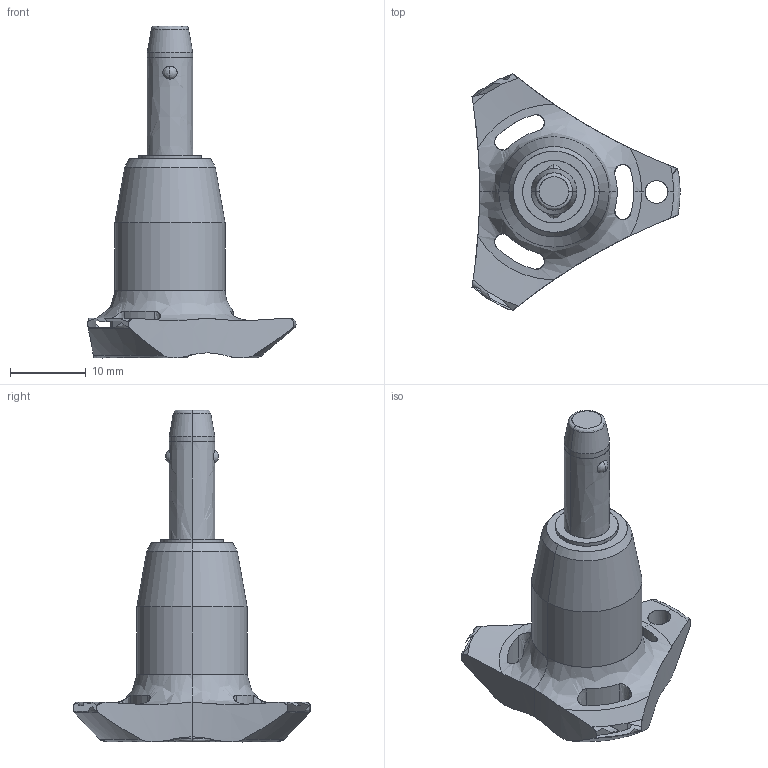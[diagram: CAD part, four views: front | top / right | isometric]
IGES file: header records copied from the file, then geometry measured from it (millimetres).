
Start section: SolidWorks IGES file using analytic representation for surfaces
Global section: file name: C:\Users\ianosborn\Desktop\QR1736_v2\QR1736_v2_20251115_IGES\QR1736.M06-010-T.igs; native system: SolidWorks 2019; preprocessor: SolidWorks 2019; author: IanOsborn; date: 251113.115015; units: millimetre
Bounding box: 27.4 x 31.31 x 43.7 mm (x, y, z)
Surface area: 2741.5 mm2 (no closed solid volume)
Topology: 0 solids, 0 shells, 69 faces, 1323 edges, 1304 vertices
Faces by surface type: revolution 52, bspline 17
